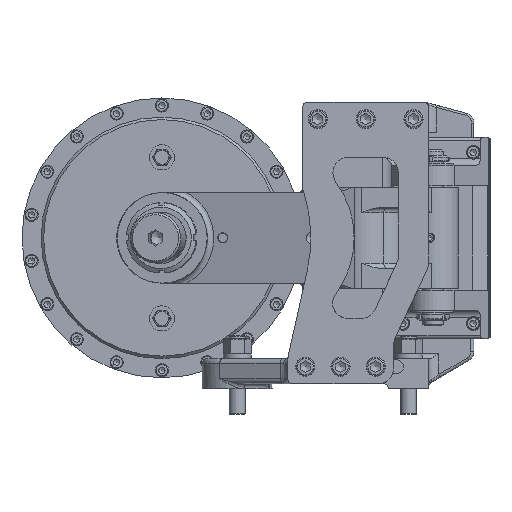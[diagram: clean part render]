
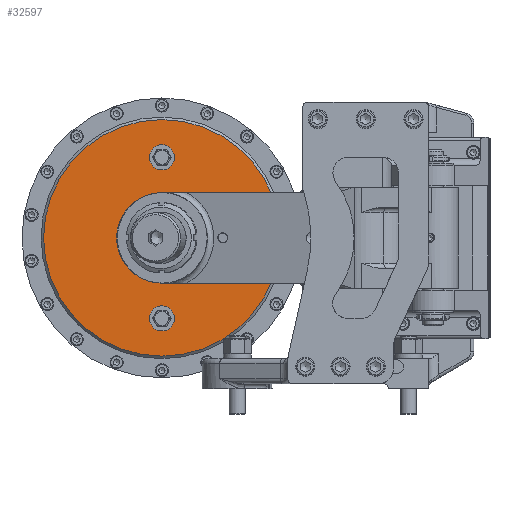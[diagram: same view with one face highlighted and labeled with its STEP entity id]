
A CAD part, left-side view. The second image highlights one B-rep face of the part: STEP entity #32597.
In plain terms, the highlighted planar face has unit normal (-1, 0, 0).
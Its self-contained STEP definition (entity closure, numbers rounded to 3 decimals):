
#1044=FACE_BOUND('',#4208,.T.);
#1045=FACE_BOUND('',#4209,.T.);
#1046=FACE_BOUND('',#4210,.T.);
#1309=PLANE('',#34468);
#2405=FACE_OUTER_BOUND('',#4207,.T.);
#4207=EDGE_LOOP('',(#20908));
#4208=EDGE_LOOP('',(#20909,#20910));
#4209=EDGE_LOOP('',(#20911,#20912));
#4210=EDGE_LOOP('',(#20913,#20914));
#10870=CIRCLE('',#34469,117.5);
#10871=CIRCLE('',#34470,12.5);
#10872=CIRCLE('',#34471,12.5);
#10873=CIRCLE('',#34472,12.5);
#10874=CIRCLE('',#34473,12.5);
#10875=CIRCLE('',#34474,45.);
#10876=CIRCLE('',#34475,45.);
#12678=VERTEX_POINT('',#47824);
#12679=VERTEX_POINT('',#47826);
#12680=VERTEX_POINT('',#47827);
#12681=VERTEX_POINT('',#47830);
#12682=VERTEX_POINT('',#47831);
#12683=VERTEX_POINT('',#47834);
#12684=VERTEX_POINT('',#47835);
#15932=EDGE_CURVE('',#12678,#12678,#10870,.T.);
#15933=EDGE_CURVE('',#12679,#12680,#10871,.T.);
#15934=EDGE_CURVE('',#12680,#12679,#10872,.T.);
#15935=EDGE_CURVE('',#12681,#12682,#10873,.T.);
#15936=EDGE_CURVE('',#12682,#12681,#10874,.T.);
#15937=EDGE_CURVE('',#12683,#12684,#10875,.T.);
#15938=EDGE_CURVE('',#12684,#12683,#10876,.T.);
#20908=ORIENTED_EDGE('',*,*,#15932,.F.);
#20909=ORIENTED_EDGE('',*,*,#15933,.T.);
#20910=ORIENTED_EDGE('',*,*,#15934,.T.);
#20911=ORIENTED_EDGE('',*,*,#15935,.T.);
#20912=ORIENTED_EDGE('',*,*,#15936,.T.);
#20913=ORIENTED_EDGE('',*,*,#15937,.F.);
#20914=ORIENTED_EDGE('',*,*,#15938,.F.);
#32597=ADVANCED_FACE('',(#2405,#1044,#1045,#1046),#1309,.T.);
#34468=AXIS2_PLACEMENT_3D('',#47823,#38247,#38248);
#34469=AXIS2_PLACEMENT_3D('',#47825,#38249,#38250);
#34470=AXIS2_PLACEMENT_3D('',#47828,#38251,#38252);
#34471=AXIS2_PLACEMENT_3D('',#47829,#38253,#38254);
#34472=AXIS2_PLACEMENT_3D('',#47832,#38255,#38256);
#34473=AXIS2_PLACEMENT_3D('',#47833,#38257,#38258);
#34474=AXIS2_PLACEMENT_3D('',#47836,#38259,#38260);
#34475=AXIS2_PLACEMENT_3D('',#47837,#38261,#38262);
#38247=DIRECTION('center_axis',(-1.,0.,0.));
#38248=DIRECTION('ref_axis',(0.,-1.,0.));
#38249=DIRECTION('center_axis',(1.,0.,0.));
#38250=DIRECTION('ref_axis',(0.,0.,-1.));
#38251=DIRECTION('center_axis',(1.,0.,0.));
#38252=DIRECTION('ref_axis',(0.,-1.,0.));
#38253=DIRECTION('center_axis',(1.,0.,0.));
#38254=DIRECTION('ref_axis',(0.,-1.,0.));
#38255=DIRECTION('center_axis',(1.,0.,0.));
#38256=DIRECTION('ref_axis',(0.,1.,0.));
#38257=DIRECTION('center_axis',(1.,0.,0.));
#38258=DIRECTION('ref_axis',(0.,1.,0.));
#38259=DIRECTION('center_axis',(-1.,0.,0.));
#38260=DIRECTION('ref_axis',(0.,0.,
1.));
#38261=DIRECTION('center_axis',(-1.,0.,0.));
#38262=DIRECTION('ref_axis',(0.,0.,
1.));
#47823=CARTESIAN_POINT('Origin',(102.25,310.,223.));
#47824=CARTESIAN_POINT('',(102.25,310.,267.5));
#47825=CARTESIAN_POINT('Origin',(102.25,310.,150.));
#47826=CARTESIAN_POINT('',(102.25,297.5,230.));
#47827=CARTESIAN_POINT('',(102.25,322.5,230.));
#47828=CARTESIAN_POINT('Origin',(102.25,310.,230.));
#47829=CARTESIAN_POINT('Origin',(102.25,310.,230.));
#47830=CARTESIAN_POINT('',(102.25,322.5,70.));
#47831=CARTESIAN_POINT('',(102.25,297.5,70.));
#47832=CARTESIAN_POINT('Origin',(102.25,310.,70.));
#47833=CARTESIAN_POINT('Origin',(102.25,310.,70.));
#47834=CARTESIAN_POINT('',(102.25,310.,105.));
#47835=CARTESIAN_POINT('',(102.25,310.,195.));
#47836=CARTESIAN_POINT('Origin',(102.25,310.,150.));
#47837=CARTESIAN_POINT('Origin',(102.25,310.,150.));
